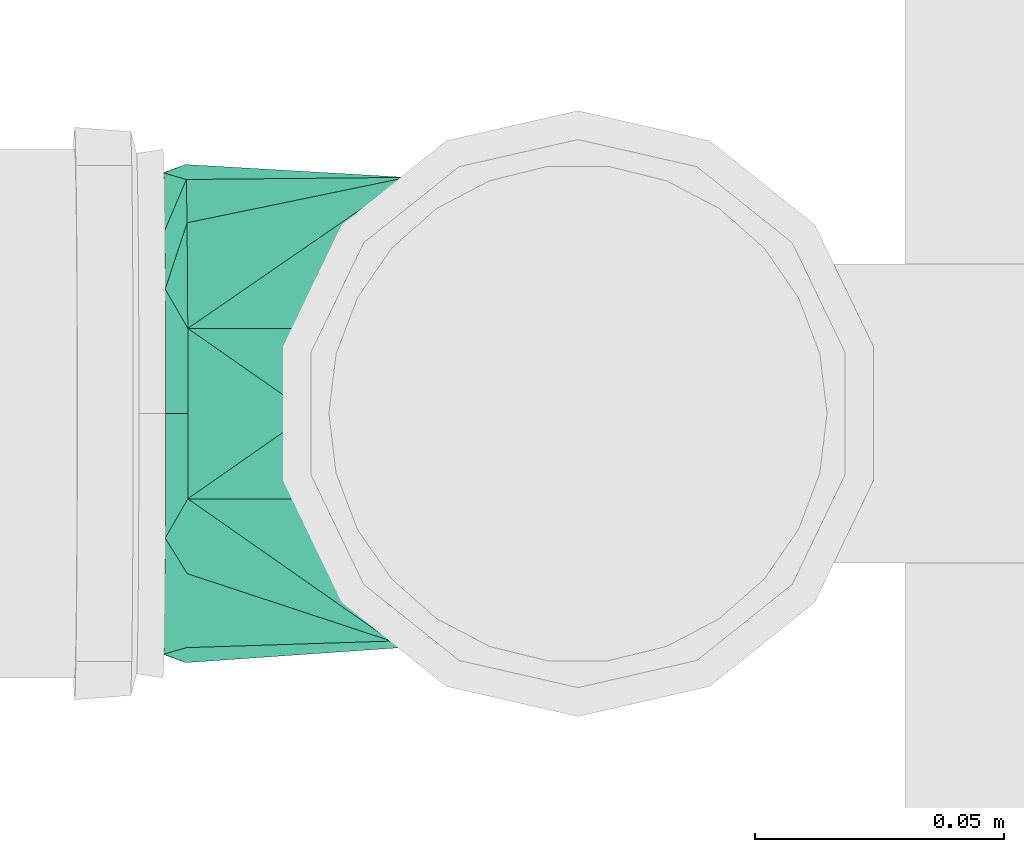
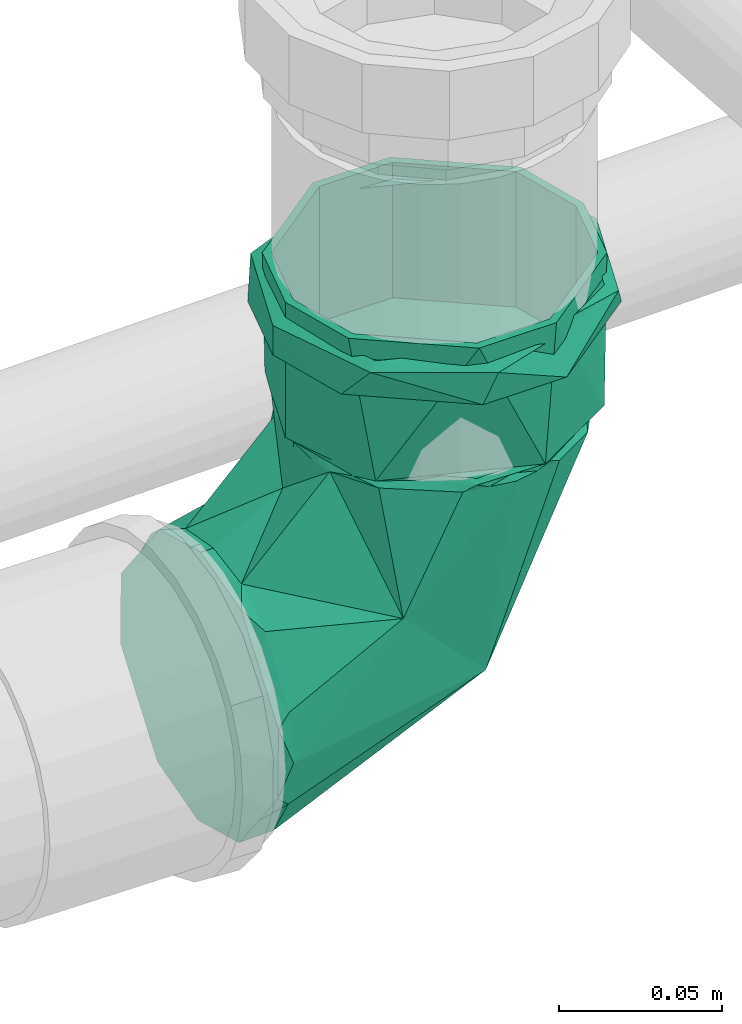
# One storey, part 83 of 589: 1 flow fitting.
"""IFC2X3 building model written with IfcOpenShell, lengths in millimetres."""

from ifc_helpers import new_model, entity, si_unit, converted_unit, derived_unit, direction, frame, origin, place, context, subcontext, project, spatial, faceted_brep, source, transform, mapped, material, type_object, type_shapes, element, save


model = new_model("IFC2X3")

# Units and contexts
model_context = context("Model", 3, precision=0.01, world=origin(), true_north=direction((6.123031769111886e-17, 1.0)))
body_context = subcontext(model_context, "Body", "Model", "MODEL_VIEW")
ifc_project = project(units=[si_unit("LENGTHUNIT", "METRE", prefix="MILLI"), si_unit("AREAUNIT", "SQUARE_METRE"), si_unit("VOLUMEUNIT", "CUBIC_METRE"), converted_unit("PLANEANGLEUNIT", "DEGREE", entity("IfcRatioMeasure", 0.017453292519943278), si_unit("PLANEANGLEUNIT", "RADIAN"), dimensions=[0, 0, 0, 0, 0, 0, 0]), si_unit("MASSUNIT", "GRAM", prefix="KILO"), derived_unit("MASSDENSITYUNIT", [(si_unit("MASSUNIT", "GRAM", prefix="KILO"), 1), (si_unit("LENGTHUNIT", "METRE"), -3)]), derived_unit("IONCONCENTRATIONUNIT", [(si_unit("MASSUNIT", "GRAM", prefix="KILO"), 1), (si_unit("LENGTHUNIT", "METRE"), -3)]), derived_unit("MOMENTOFINERTIAUNIT", [(si_unit("LENGTHUNIT", "METRE"), 4)]), si_unit("TIMEUNIT", "SECOND"), si_unit("FREQUENCYUNIT", "HERTZ"), si_unit("THERMODYNAMICTEMPERATUREUNIT", "DEGREE_CELSIUS"), derived_unit("THERMALTRANSMITTANCEUNIT", [(si_unit("MASSUNIT", "GRAM", prefix="KILO"), 1), (si_unit("THERMODYNAMICTEMPERATUREUNIT", "KELVIN"), -1), (si_unit("TIMEUNIT", "SECOND"), -3)]), derived_unit("THERMALCONDUCTANCEUNIT", [(si_unit("MASSUNIT", "GRAM", prefix="KILO"), 1), (si_unit("THERMODYNAMICTEMPERATUREUNIT", "KELVIN"), -1), (si_unit("TIMEUNIT", "SECOND"), -3), (si_unit("LENGTHUNIT", "METRE"), 1)]), derived_unit("VOLUMETRICFLOWRATEUNIT", [(si_unit("LENGTHUNIT", "METRE"), 3), (si_unit("TIMEUNIT", "SECOND"), -1)]), derived_unit("MASSFLOWRATEUNIT", [(si_unit("MASSUNIT", "GRAM", prefix="KILO"), 1), (si_unit("TIMEUNIT", "SECOND"), -1)]), derived_unit("ROTATIONALFREQUENCYUNIT", [(si_unit("TIMEUNIT", "SECOND"), -1)]), si_unit("ELECTRICCURRENTUNIT", "AMPERE"), si_unit("ELECTRICVOLTAGEUNIT", "VOLT"), si_unit("POWERUNIT", "WATT"), si_unit("FORCEUNIT", "NEWTON", prefix="KILO"), si_unit("ILLUMINANCEUNIT", "LUX"), si_unit("LUMINOUSFLUXUNIT", "LUMEN"), si_unit("LUMINOUSINTENSITYUNIT", "CANDELA"), derived_unit("USERDEFINED", [(si_unit("MASSUNIT", "GRAM", prefix="KILO"), -1), (si_unit("LENGTHUNIT", "METRE"), -2), (si_unit("TIMEUNIT", "SECOND"), 3), (si_unit("LUMINOUSFLUXUNIT", "LUMEN"), 1)]), derived_unit("USERDEFINED", [(si_unit("MASSUNIT", "GRAM", prefix="KILO"), 1), (si_unit("TIMEUNIT", "SECOND"), -3), (si_unit("LENGTHUNIT", "METRE"), 3), (si_unit("ELECTRICCURRENTUNIT", "AMPERE"), -2)]), derived_unit("SOUNDPOWERUNIT", [(si_unit("MASSUNIT", "GRAM", prefix="KILO"), 1), (si_unit("TIMEUNIT", "SECOND"), -3), (si_unit("LENGTHUNIT", "METRE"), 2)]), derived_unit("SOUNDPRESSUREUNIT", [(si_unit("MASSUNIT", "GRAM", prefix="KILO"), 1), (si_unit("LENGTHUNIT", "METRE"), -1), (si_unit("TIMEUNIT", "SECOND"), -2)]), derived_unit("LINEARVELOCITYUNIT", [(si_unit("LENGTHUNIT", "METRE"), 1), (si_unit("TIMEUNIT", "SECOND"), -1)]), si_unit("PRESSUREUNIT", "PASCAL"), derived_unit("USERDEFINED", [(si_unit("MASSUNIT", "GRAM", prefix="KILO"), 1), (si_unit("LENGTHUNIT", "METRE"), -2), (si_unit("TIMEUNIT", "SECOND"), -2)]), derived_unit("LINEARFORCEUNIT", [(si_unit("MASSUNIT", "GRAM", prefix="KILO"), 1), (si_unit("TIMEUNIT", "SECOND"), -2)]), derived_unit("PLANARFORCEUNIT", [(si_unit("MASSUNIT", "GRAM", prefix="KILO"), 1), (si_unit("LENGTHUNIT", "METRE"), -1), (si_unit("TIMEUNIT", "SECOND"), -2)]), derived_unit("SPECIFICHEATCAPACITYUNIT", [(si_unit("THERMODYNAMICTEMPERATUREUNIT", "KELVIN"), -1), (si_unit("LENGTHUNIT", "METRE"), 2), (si_unit("TIMEUNIT", "SECOND"), -2)]), derived_unit("HEATINGVALUEUNIT", [(si_unit("LENGTHUNIT", "METRE"), 2), (si_unit("TIMEUNIT", "SECOND"), -2)]), derived_unit("VAPORPERMEABILITYUNIT", [(si_unit("LENGTHUNIT", "METRE"), -1), (si_unit("TIMEUNIT", "SECOND"), 1)]), derived_unit("DYNAMICVISCOSITYUNIT", [(si_unit("MASSUNIT", "GRAM", prefix="KILO"), 1), (si_unit("TIMEUNIT", "SECOND"), -1), (si_unit("LENGTHUNIT", "METRE"), -1)]), derived_unit("THERMALEXPANSIONCOEFFICIENTUNIT", [(si_unit("THERMODYNAMICTEMPERATUREUNIT", "KELVIN"), -1)]), derived_unit("MODULUSOFELASTICITYUNIT", [(si_unit("MASSUNIT", "GRAM", prefix="KILO"), 1), (si_unit("LENGTHUNIT", "METRE"), -1), (si_unit("TIMEUNIT", "SECOND"), -2)]), derived_unit("ISOTHERMALMOISTURECAPACITYUNIT", [(si_unit("LENGTHUNIT", "METRE"), 3), (si_unit("MASSUNIT", "GRAM", prefix="KILO"), -1)]), derived_unit("MOISTUREDIFFUSIVITYUNIT", [(si_unit("TIMEUNIT", "SECOND"), -1), (si_unit("LENGTHUNIT", "METRE"), 2)])], contexts=[model_context])

# Site, building, storey
site_placement = place(None, origin())
site = spatial("IfcSite", under=ifc_project, at=site_placement, Name="Default", CompositionType="ELEMENT")
building_placement = place(site_placement, origin())
building = spatial("IfcBuilding", under=site, at=building_placement, CompositionType="ELEMENT")
storey_placement = place(building_placement, frame((0.0, 0.0, 100.0)))
storey = spatial("IfcBuildingStorey", under=building, at=storey_placement, Name="TÉRREO", CompositionType="ELEMENT", Elevation=100.0)

# Flow fitting
ifc_material = material(Name="PVC Branco")
pipe_fitting_type = type_object("IfcPipeFittingType", Name="PVC Esgoto_Curva 90° Curta:a. Série Normal", PredefinedType="NOTDEFINED", material=ifc_material)
shared_shape = source(origin(), body_context, "Body", "Brep", [
    faceted_brep([(-13.77310261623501, 83.150332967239, 48.29629131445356), (12.107507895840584, 83.40913907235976, 48.296291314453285), (27.28690791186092, 83.56093307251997, 36.64814565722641), (42.466307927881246, 83.71272707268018, 25.0), (49.16470282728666, 83.77971102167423, 0.0), (42.46630792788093, 83.71272707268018, -25.0), (27.286907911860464, 83.56093307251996, -36.64814565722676), (12.107507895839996, 83.40913907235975, -48.29629131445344), (-13.773102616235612, 83.150332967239, -48.2962913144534), (-28.95250263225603, 82.99853896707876, -36.64814565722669), (-44.131902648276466, 82.84674496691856, -25.0), (-50.83029754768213, 82.7797610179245, 0.0), (-44.131902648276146, 82.84674496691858, 25.0), (-28.952502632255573, 82.99853896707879, 36.64814565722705), (46.19447148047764, 79.24978371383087, 17.1010370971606), (16.31224781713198, 78.9509614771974, 46.9846691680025), (-17.887847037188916, 78.60896052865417, 46.98466916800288), (49.209700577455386, 79.27993600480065, 0.0), (37.5124666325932, 79.16296366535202, 32.139429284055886), (-32.92551224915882, 78.45858387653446, 38.30227334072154), (-0.7877996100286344, 78.77996100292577, 50.0), (-47.77007070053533, 78.31013829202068, 17.10103709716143), (-50.78529979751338, 78.2799860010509, 0.0), (-47.77007070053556, 78.31013829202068, -17.10103709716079), (-17.88784703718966, 78.60896052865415, -46.98466916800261), (16.312247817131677, 78.9509614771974, -46.98466916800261), (-39.08806585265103, 78.39695834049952, -32.1394292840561), (31.34991302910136, 79.1013381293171, -38.302273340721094), (-0.7877996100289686, 78.77996100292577, -50.0), (46.194471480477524, 79.24978371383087, -17.10103709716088), (-7.975140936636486, 7.895786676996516, 45.073651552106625), (-78.78389990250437, -17.100902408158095, 46.98466916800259), (-78.7838999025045, -27.701541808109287, 39.562049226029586), (-78.78389990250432, -38.302181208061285, 32.139429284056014), (-14.414764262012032, -32.63731005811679, 0.0), (-78.78389990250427, -46.984620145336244, 17.101037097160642), (-78.78389990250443, -48.49231007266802, 8.55051854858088), (-78.78389990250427, -50.0, 0.0), (-78.78389990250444, -42.64340067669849, 24.620233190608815), (-78.78389990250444, 0.0, 50.0), (-78.78389990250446, -8.550451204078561, 48.492334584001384), (32.49153787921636, 14.740400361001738, 0.0), (-34.6369786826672, 34.29234046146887, 47.412359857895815), (-78.78389990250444, 17.100902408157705, 46.98466916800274), (-78.78389990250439, 8.550451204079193, 48.49233458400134), (-78.78389990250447, 32.13931948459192, 38.302273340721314), (-78.78389990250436, 24.620110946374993, 42.64347125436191), (-78.78389990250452, 46.98462014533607, 17.101037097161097), (-78.78389990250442, 39.56196981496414, 27.701655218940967), (-64.70315148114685, 53.79808842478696, 0.0), (-78.78389990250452, 50.0, 0.0), (-78.78389990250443, 48.492310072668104, 8.550518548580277), (-37.82579928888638, 37.449427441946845, -45.66519222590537), (-78.78389990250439, 0.0, -50.0), (-78.78389990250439, 8.55045120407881, -48.49233458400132), (-78.78389990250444, 17.10090240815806, -46.984669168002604), (-7.975138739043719, 7.895784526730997, -45.07365007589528), (-78.78389990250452, 46.98462014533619, -17.101037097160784), (-78.78389990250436, 27.701541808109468, -39.562049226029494), (-78.7838999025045, 38.30218120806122, -32.139429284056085), (-78.78389990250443, -48.492310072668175, -8.550518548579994), (-78.78389990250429, -46.984620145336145, -17.1010370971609), (-78.78389990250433, -32.13931948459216, -38.302273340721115), (-78.7838999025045, -24.620110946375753, -42.6434712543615), (-78.78389990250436, -17.100902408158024, -46.98466916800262), (-78.78389990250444, -39.56196981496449, -27.70165521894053), (-78.78389990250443, 48.49231007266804, -8.550518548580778), (-78.78389990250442, 42.64340067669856, -24.620233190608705), (-78.78389990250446, -8.550451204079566, -48.49233458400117), (-80.78389990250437, 50.0, 0.0), (-80.78389990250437, 46.65063509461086, -12.500000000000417), (-80.78389990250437, 43.30127018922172, -25.0), (-80.78389990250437, 35.711190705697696, -30.82407282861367), (-80.78389990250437, 28.121111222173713, -36.64814565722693), (-80.78389990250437, 20.53103173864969, -42.47221848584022), (-80.78389990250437, 12.940952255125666, -48.29629131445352), (-80.78389990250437, 0.0, -48.29629131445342), (-80.78389990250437, -12.940952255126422, -48.29629131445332), (-80.78389990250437, -20.531031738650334, -42.47221848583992), (-80.78389990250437, -28.121111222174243, -36.64814565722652), (-80.78389990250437, -35.7111907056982, -30.824072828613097), (-80.78389990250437, -43.30127018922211, -25.0), (-80.78389990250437, -46.650635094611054, -12.499999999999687), (-80.78389990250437, -50.0, 0.0), (-80.78389990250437, -46.65063509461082, 12.500000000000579), (-80.78389990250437, -43.30127018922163, 25.0), (-80.78389990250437, -35.71119070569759, 30.82407282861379), (-80.78389990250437, -28.12111122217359, 36.648145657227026), (-80.78389990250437, -20.531031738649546, 42.47221848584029), (-80.78389990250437, -12.940952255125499, 48.29629131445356), (-80.78389990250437, 0.0, 48.29629131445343), (-80.78389990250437, 12.940952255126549, 48.296291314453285), (-80.78389990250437, 20.531031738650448, 42.47221848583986), (-80.78389990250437, 28.121111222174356, 36.648145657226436), (-80.78389990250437, 35.711190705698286, 30.824072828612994), (-80.78389990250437, 43.30127018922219, 25.0), (-80.78389990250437, 46.65063509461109, 12.499999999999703)], [[[0, 1, 2, 3, 4, 5, 6, 7, 8, 9, 10, 11, 12, 13]], [[14, 4, 3]], [[1, 15, 2]], [[13, 16, 0]], [[17, 4, 14]], [[18, 14, 3]], [[2, 15, 18]], [[13, 12, 19]], [[1, 20, 15]], [[18, 3, 2]], [[12, 21, 19]], [[12, 11, 21]], [[22, 21, 11]], [[20, 0, 16]], [[16, 13, 19]], [[0, 20, 1]], [[23, 11, 10]], [[8, 24, 9]], [[6, 25, 7]], [[22, 11, 23]], [[26, 23, 10]], [[9, 24, 26]], [[6, 5, 27]], [[8, 28, 24]], [[26, 10, 9]], [[5, 29, 27]], [[5, 4, 29]], [[17, 29, 4]], [[28, 7, 25]], [[25, 6, 27]], [[7, 28, 8]], [[30, 31, 32, 33]], [[34, 35, 36, 37]], [[34, 30, 33]], [[34, 33, 38, 35]], [[30, 39, 40, 31]], [[41, 30, 34]], [[42, 43, 44, 39]], [[20, 42, 30]], [[30, 42, 39]], [[42, 45, 46, 43]], [[42, 47, 48, 45]], [[49, 50, 51, 47]], [[20, 30, 15]], [[20, 16, 42]], [[30, 18, 15]], [[14, 18, 41]], [[17, 14, 41]], [[49, 21, 22]], [[49, 47, 21]], [[47, 42, 21]], [[42, 19, 21]], [[42, 16, 19]], [[30, 41, 18]], [[52, 53, 54, 55]], [[34, 56, 41]], [[52, 24, 28]], [[52, 57, 23]], [[52, 55, 58, 59]], [[56, 53, 52]], [[34, 37, 60, 61]], [[56, 62, 63, 64]], [[62, 56, 34]], [[34, 61, 65, 62]], [[49, 57, 66, 50]], [[49, 22, 23]], [[27, 56, 25]], [[52, 59, 67, 57]], [[52, 26, 24]], [[52, 23, 26]], [[52, 28, 56]], [[56, 64, 68, 53]], [[28, 25, 56]], [[56, 27, 41]], [[29, 17, 41]], [[29, 41, 27]], [[49, 23, 57]], [[69, 70, 71, 72, 73, 74, 75, 76, 77, 78, 79, 80, 81, 82, 83, 84, 85, 86, 87, 88, 89, 90, 91, 92, 93, 94, 95, 96]], [[51, 50, 69]], [[31, 89, 88]], [[92, 43, 46]], [[46, 45, 93]], [[31, 88, 32]], [[93, 92, 46]], [[96, 95, 47]], [[94, 93, 45]], [[85, 84, 35]], [[69, 96, 51]], [[90, 44, 91]], [[89, 40, 90]], [[33, 87, 86, 85]], [[85, 35, 38, 33]], [[89, 31, 40]], [[83, 36, 84]], [[45, 48, 94]], [[40, 39, 90]], [[44, 43, 91]], [[32, 88, 87]], [[48, 47, 95]], [[87, 33, 32]], [[44, 90, 39]], [[96, 47, 51]], [[92, 91, 43]], [[48, 95, 94]], [[36, 83, 37]], [[36, 35, 84]], [[60, 37, 83]], [[55, 75, 74]], [[78, 64, 63]], [[63, 62, 79]], [[55, 74, 58]], [[79, 78, 63]], [[82, 81, 61]], [[80, 79, 62]], [[71, 70, 57]], [[83, 82, 60]], [[76, 68, 77]], [[75, 54, 76]], [[59, 73, 72, 71]], [[71, 57, 67, 59]], [[75, 55, 54]], [[69, 66, 70]], [[62, 65, 80]], [[54, 53, 76]], [[68, 64, 77]], [[58, 74, 73]], [[65, 61, 81]], [[73, 59, 58]], [[68, 76, 53]], [[82, 61, 60]], [[78, 77, 64]], [[65, 81, 80]], [[66, 69, 50]], [[66, 57, 70]]]),
    faceted_brep([(-115.78389990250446, 13.678586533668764, -51.04917991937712), (-115.78389990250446, -13.678586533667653, -51.04917991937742), (-115.78389990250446, -14.83033128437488, -55.3475498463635), (-115.78389990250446, 14.830331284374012, -55.347549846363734), (-115.78389990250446, 45.76944259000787, -26.42499999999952), (-115.78389990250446, -49.62325563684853, -28.64999999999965), (-115.78389990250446, -45.769442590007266, -26.425000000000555), (-115.78389990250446, -52.85000000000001, 0.0), (-115.78389990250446, -57.300000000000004, 0.0), (-115.78389990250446, -45.76944259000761, 26.424999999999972), (-115.78389990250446, -49.62325563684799, 28.6500000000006), (-115.78389990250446, -13.67858653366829, 51.04917991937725), (-115.78389990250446, -14.830331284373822, 55.34754984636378), (-115.78389990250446, 13.678586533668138, 51.049179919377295), (-115.78389990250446, 14.830331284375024, 55.34754984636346), (-115.78389990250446, 45.76944259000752, 26.42500000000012), (-115.78389990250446, 49.62325563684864, 28.64999999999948), (-115.78389990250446, 57.300000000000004, 0.0), (-115.78389990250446, 52.85000000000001, 0.0), (-115.78389990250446, 49.62325563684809, -28.65000000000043), (-126.78389990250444, 57.300000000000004, 0.0), (-126.78389990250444, 50.59641416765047, 18.416769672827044), (-126.78389990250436, 43.89282833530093, 36.833539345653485), (-126.78389990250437, 16.96848634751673, 46.63099896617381), (-126.78389990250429, -9.955855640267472, 56.42845858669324), (-126.78389990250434, -26.927757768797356, 46.62692777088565), (-126.78389990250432, -43.89965989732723, 36.82539695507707), (-126.78389990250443, -51.65442122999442, 15.514582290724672), (-126.78389990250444, -57.300000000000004, 0.0), (-126.78389990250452, -51.654421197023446, -15.514582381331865), (-126.78389990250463, -43.89965989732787, -36.825396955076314), (-126.78389990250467, -16.97713572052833, -46.627850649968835), (-126.7838999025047, 9.945388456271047, -56.43030434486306), (-126.78389990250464, 26.91910839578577, -46.63192184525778), (-126.7838999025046, 43.89282833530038, -36.83353934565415), (-126.78389990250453, 50.59641416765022, -18.416769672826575), (-126.78389990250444, 52.85000000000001, 0.0), (-128.2838999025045, 52.85000000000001, 0.0), (-126.78389990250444, 51.07986064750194, -6.606250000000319), (-126.78389990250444, 49.309721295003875, -13.212500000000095), (-126.78389990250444, 47.53958194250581, -19.818749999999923), (-126.78389990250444, 45.769442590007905, -26.42499999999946), (-126.78389990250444, 37.74672857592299, -32.581044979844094), (-126.78389990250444, 29.72401456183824, -38.73708995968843), (-126.78389990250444, 21.70130054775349, -44.89313493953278), (-126.78389990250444, 13.678586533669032, -51.049179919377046), (-126.78389990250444, 6.83929326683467, -51.0491799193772), (-126.78389990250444, 0.0, -51.04917991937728), (-126.78389990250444, -6.839293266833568, -51.049179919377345), (-126.78389990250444, -13.678586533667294, -51.049179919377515), (-126.78389990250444, -21.70130054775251, -44.89313493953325), (-126.78389990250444, -29.724014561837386, -38.73708995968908), (-126.78389990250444, -37.74672857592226, -32.581044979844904), (-126.78389990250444, -45.76944259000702, -26.425000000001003), (-126.78389990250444, -47.53958194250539, -19.818750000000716), (-126.78389990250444, -49.3097212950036, -13.212500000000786), (-126.78389990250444, -51.0798606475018, -6.606250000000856), (-128.2838999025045, -52.85000000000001, 0.0), (-126.78389990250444, -52.85000000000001, 0.0), (-126.78389990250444, -51.07986064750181, 6.606250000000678), (-126.78389990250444, -49.30972129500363, 13.212500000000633), (-126.78389990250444, -47.53958194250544, 19.81875000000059), (-126.78389990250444, -45.769442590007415, 26.425000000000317), (-126.78389990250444, -37.74672857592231, 32.58104497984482), (-126.78389990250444, -29.724014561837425, 38.73708995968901), (-126.78389990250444, -21.70130054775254, 44.893134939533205), (-126.78389990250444, -17.689943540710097, 47.9711574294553), (-126.78389990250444, -13.67858653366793, 51.049179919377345), (-126.78389990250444, -6.8392932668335, 51.04917991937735), (-126.78389990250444, 0.0, 51.04917991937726), (-126.78389990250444, 6.839293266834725, 51.04917991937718), (-126.78389990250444, 13.67858653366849, 51.049179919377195), (-126.78389990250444, 21.701300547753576, 44.893134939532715), (-126.78389990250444, 29.724014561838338, 38.73708995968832), (-126.78389990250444, 37.7467285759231, 32.58104497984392), (-126.78389990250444, 45.769442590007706, 26.424999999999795), (-126.78389990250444, 47.539581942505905, 19.818749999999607), (-126.78389990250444, 49.30972129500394, 13.212499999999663), (-126.78389990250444, 51.079860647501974, 6.606249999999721), (-128.28389990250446, -49.75936154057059, 8.49223617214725), (-128.28389990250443, -46.668723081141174, 16.984472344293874), (-128.28389990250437, -21.863819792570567, 40.74836470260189), (-128.28389990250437, -15.655944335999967, 43.00817137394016), (-128.28389990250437, -28.07169524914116, 38.488558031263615), (-128.2838999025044, 40.48487812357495, 33.9720052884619), (-128.2838999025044, 32.6575479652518, 38.490853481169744), (-128.28389990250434, 9.175557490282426, 52.04739805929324), (-128.2838999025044, 24.830217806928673, 43.00970167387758), (-128.28389990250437, 17.002887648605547, 47.528549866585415), (-128.2838999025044, -43.578084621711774, 25.476708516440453), (-128.2838999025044, -40.48744616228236, 33.96894468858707), (-128.2838999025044, -34.27957070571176, 36.22875135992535), (-128.28389990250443, 46.667439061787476, 16.986002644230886), (-128.28389990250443, 43.57615859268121, 25.479003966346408), (-128.28389990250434, 2.967682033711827, 49.78759138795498), (-127.4733463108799, 42.95894728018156, 30.783946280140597), (-128.28389990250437, -9.44806887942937, 45.26797804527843), (-128.2838999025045, 49.75871953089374, 8.49300132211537), (-128.2838999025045, 47.64176169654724, 14.30914316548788), (-128.28389990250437, -3.2401934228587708, 47.5277847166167), (-128.28389990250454, 46.667439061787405, -16.986002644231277), (-128.28389990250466, 3.2366004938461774, -47.52802952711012), (-128.28389990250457, 43.576158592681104, -25.479003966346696), (-128.2838999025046, 40.4848781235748, -33.972005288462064), (-128.2838999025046, 34.27683185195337, -36.231342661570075), (-128.28389990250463, -17.006480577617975, -47.52726437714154), (-128.28389990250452, 49.75871953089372, -8.493001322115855), (-128.28389990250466, -9.179492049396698, -52.04670427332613), (-128.28389990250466, -2.971445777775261, -49.787366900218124), (-128.28389990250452, -46.66872308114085, -16.984472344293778), (-128.28389990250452, -43.578084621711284, -25.476708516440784), (-128.2838999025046, 28.068785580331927, -38.490680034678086), (-128.28389990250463, 21.86073930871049, -40.75001740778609), (-128.28389990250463, 15.652693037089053, -43.00935478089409), (-128.28389990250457, -32.66045763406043, -38.48838458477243), (-128.2838999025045, -49.75936154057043, -8.492236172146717), (-128.28389990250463, 9.444646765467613, -45.268692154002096), (-128.28389990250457, -40.48744616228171, -33.96894468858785), (-128.2838999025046, -24.833469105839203, -43.007824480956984)], [[[0, 1, 2]], [[2, 3, 0]], [[4, 0, 3]], [[5, 2, 1]], [[1, 6, 5]], [[6, 7, 5]], [[8, 5, 7]], [[8, 7, 9]], [[10, 8, 9]], [[9, 11, 10]], [[11, 12, 10]], [[13, 12, 11]], [[12, 13, 14]], [[13, 15, 14]], [[16, 14, 15]], [[16, 15, 17]], [[17, 15, 18]], [[18, 4, 19]], [[17, 18, 19]], [[3, 19, 4]], [[16, 20, 21, 22]], [[20, 16, 17]], [[16, 22, 14]], [[14, 22, 23, 24]], [[12, 24, 25, 26]], [[10, 26, 27, 28]], [[26, 10, 12]], [[10, 28, 8]], [[24, 12, 14]], [[5, 28, 29, 30]], [[28, 5, 8]], [[5, 30, 2]], [[2, 30, 31, 32]], [[3, 32, 33, 34]], [[19, 34, 35, 20]], [[34, 19, 3]], [[19, 20, 17]], [[32, 3, 2]], [[4, 18, 36, 37, 38, 39, 40, 41]], [[0, 4, 41, 42, 43, 44, 45]], [[0, 45, 46, 47, 48, 49, 1]], [[6, 1, 49, 50, 51, 52, 53]], [[7, 6, 53, 54, 55, 56, 57, 58]], [[9, 7, 58, 57, 59, 60, 61, 62]], [[11, 9, 62, 63, 64, 65, 66, 67]], [[11, 67, 68, 69, 70, 71, 13]], [[15, 13, 71, 72, 73, 74, 75]], [[18, 15, 75, 76, 77, 78, 37, 36]], [[79, 80, 60]], [[81, 82, 65, 83]], [[84, 74, 85]], [[73, 85, 74]], [[71, 70, 86]], [[87, 72, 88]], [[89, 90, 62]], [[90, 91, 63]], [[66, 65, 82, 67]], [[92, 76, 93]], [[59, 79, 60]], [[83, 65, 64]], [[61, 89, 62]], [[63, 91, 64]], [[71, 88, 72]], [[86, 70, 94]], [[69, 94, 70]], [[75, 95, 93]], [[96, 67, 82]], [[78, 97, 37]], [[84, 93, 95]], [[77, 92, 98, 97]], [[73, 87, 85]], [[74, 95, 75]], [[95, 74, 84]], [[73, 72, 87]], [[71, 86, 88]], [[63, 62, 90]], [[61, 80, 89]], [[91, 83, 64]], [[75, 93, 76]], [[92, 77, 76]], [[79, 59, 57]], [[61, 60, 80]], [[99, 94, 69]], [[99, 68, 96]], [[78, 77, 97]], [[67, 96, 68]], [[99, 69, 68]], [[40, 39, 100]], [[47, 46, 101]], [[102, 103, 41]], [[43, 42, 104]], [[49, 105, 50]], [[106, 100, 39]], [[42, 103, 104]], [[107, 48, 108]], [[109, 54, 110]], [[106, 38, 37]], [[111, 112, 113, 44]], [[40, 102, 41]], [[42, 41, 103]], [[51, 114, 52]], [[56, 115, 57]], [[113, 116, 45]], [[101, 46, 116]], [[45, 116, 46]], [[44, 43, 111]], [[113, 45, 44]], [[53, 117, 110]], [[55, 109, 115]], [[117, 53, 52]], [[100, 102, 40]], [[118, 50, 105]], [[118, 51, 50]], [[105, 49, 107]], [[53, 110, 54]], [[109, 55, 54]], [[117, 52, 114]], [[51, 118, 114]], [[107, 49, 48]], [[47, 108, 48]], [[56, 55, 115]], [[104, 111, 43]], [[106, 39, 38]], [[47, 101, 108]], [[30, 109, 110, 117]], [[29, 57, 115, 109]], [[107, 32, 31]], [[31, 118, 105, 107]], [[57, 29, 28]], [[30, 117, 114, 118]], [[20, 100, 106, 37]], [[33, 113, 112, 111, 104, 103]], [[30, 118, 31]], [[32, 107, 108, 101, 116, 113]], [[20, 35, 100]], [[30, 29, 109]], [[34, 103, 35]], [[113, 33, 32]], [[34, 33, 103]], [[35, 103, 102, 100]], [[21, 84, 22]], [[20, 98, 21]], [[23, 87, 88, 86]], [[22, 84, 85, 87]], [[20, 37, 97, 98]], [[22, 87, 23]], [[27, 80, 79, 57]], [[24, 86, 94, 99, 96, 82]], [[86, 24, 23]], [[82, 25, 24]], [[26, 90, 89, 80]], [[21, 98, 92, 93, 84]], [[26, 80, 27]], [[90, 26, 25]], [[25, 82, 81, 83, 91, 90]], [[57, 28, 27]]]),
    faceted_brep([(-133.9838999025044, -13.678586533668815, -51.04917991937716), (-133.9838999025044, -12.940952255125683, -48.29629131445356), (-133.9838999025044, 12.940952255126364, -48.29629131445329), (-133.9838999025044, -45.76944259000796, -26.424999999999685), (-133.9838999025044, 13.678586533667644, -51.04917991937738), (-133.9838999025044, -43.301270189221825, -25.0), (-133.9838999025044, -50.0, 0.0), (-133.9838999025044, -52.850000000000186, 0.0), (-133.9838999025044, -43.30127018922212, 25.0), (-133.9838999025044, -45.76944259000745, 26.425000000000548), (-133.9838999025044, -12.940952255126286, 48.29629131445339), (-133.9838999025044, -13.678586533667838, 51.049179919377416), (-133.9838999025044, 12.940952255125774, 48.29629131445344), (-133.9838999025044, 13.678586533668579, 51.04917991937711), (-133.9838999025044, 43.30127018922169, 25.0), (-133.9838999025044, 45.76944259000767, 26.42499999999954), (-133.9838999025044, 52.84999999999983, 0.0), (-133.9838999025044, 50.0, 0.0), (-133.9838999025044, 45.76944259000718, -26.425000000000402), (-133.9838999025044, 43.30127018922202, -25.0), (-83.28389990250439, 52.849999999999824, 0.0), (-83.28389990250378, 40.488967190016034, 33.967131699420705), (-83.28389990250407, 46.66948359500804, 16.983565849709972), (-83.28389990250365, 9.181156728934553, 52.04641064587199), (-83.2838999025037, 24.835061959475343, 43.00677117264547), (-83.283899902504, -40.48444349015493, 33.972523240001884), (-83.28389990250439, -52.85000000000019, 0.0), (-83.28389990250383, -15.651643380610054, 43.00946694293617), (-83.2838999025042, -46.667221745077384, 16.986261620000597), (-83.28389990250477, -40.48444349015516, -33.972523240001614), (-83.28389990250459, -46.6672217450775, -16.98626162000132), (-83.283899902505, -9.174225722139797, -52.04763282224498), (-83.2838999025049, -24.829334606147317, -43.010078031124), (-83.28389990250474, 40.488967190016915, -33.96713169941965), (-83.28389990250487, 15.657370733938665, -43.00738226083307), (-83.28389990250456, 46.6694835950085, -16.98356584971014), (-83.28389990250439, -43.301270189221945, 25.0), (-83.28389990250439, -12.940952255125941, 48.2962913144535), (-83.28389990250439, 12.940952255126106, 48.29629131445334), (-83.28389990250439, 43.30127018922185, 25.0), (-83.28389990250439, 50.0, 0.0), (-83.28389990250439, 43.30127018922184, -25.0), (-83.28389990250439, 12.940952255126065, -48.296291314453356), (-83.28389990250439, -12.940952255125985, -48.29629131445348), (-83.28389990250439, -43.301270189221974, -25.0), (-83.28389990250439, -50.0, 0.0), (-80.78389990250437, 12.940952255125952, 48.29629131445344), (-80.78389990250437, -12.940952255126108, 48.29629131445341), (-80.78389990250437, -28.121111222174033, 36.64814565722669), (-80.78389990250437, -43.30127018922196, 25.0), (-80.78389990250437, -50.0, 0.0), (-80.78389990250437, -43.30127018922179, -25.0), (-80.78389990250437, -28.1211112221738, -36.64814565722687), (-80.78389990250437, -12.94095225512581, -48.29629131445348), (-80.78389990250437, 12.940952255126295, -48.29629131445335), (-80.78389990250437, 28.121111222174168, -36.64814565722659), (-80.78389990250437, 43.301270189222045, -25.0), (-80.78389990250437, 50.0, 0.0), (-80.78389990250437, 43.301270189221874, 25.0), (-80.78389990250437, 28.121111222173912, 36.648145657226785)], [[[0, 1, 2]], [[1, 0, 3]], [[2, 4, 0]], [[3, 5, 1]], [[3, 6, 5]], [[6, 3, 7]], [[8, 6, 7]], [[8, 7, 9]], [[9, 10, 8]], [[9, 11, 10]], [[10, 11, 12]], [[13, 12, 11]], [[13, 14, 12]], [[14, 13, 15]], [[16, 14, 15]], [[17, 14, 16]], [[18, 17, 16]], [[18, 19, 17]], [[19, 18, 4]], [[4, 2, 19]], [[16, 15, 20]], [[15, 21, 22, 20]], [[21, 15, 13]], [[13, 23, 24, 21]], [[25, 11, 9]], [[26, 9, 7]], [[11, 25, 27, 23]], [[9, 26, 28, 25]], [[11, 23, 13]], [[7, 3, 26]], [[3, 29, 30, 26]], [[29, 3, 0]], [[0, 31, 32, 29]], [[33, 4, 18]], [[20, 18, 16]], [[4, 33, 34, 31]], [[18, 20, 35, 33]], [[4, 31, 0]], [[36, 37, 38, 39, 40, 41, 42, 43, 44, 45]], [[46, 47, 48, 49, 50, 51, 52, 53, 54, 55, 56, 57, 58, 59]], [[34, 55, 54]], [[35, 57, 56]], [[35, 20, 57]], [[56, 33, 35]], [[33, 55, 34]], [[32, 31, 53]], [[30, 29, 51]], [[52, 29, 32]], [[33, 56, 55]], [[30, 50, 26]], [[50, 30, 51]], [[54, 31, 34]], [[52, 51, 29]], [[53, 31, 54]], [[53, 52, 32]], [[27, 48, 47]], [[28, 50, 49]], [[28, 26, 50]], [[49, 25, 28]], [[25, 48, 27]], [[24, 23, 46]], [[22, 21, 58]], [[59, 21, 24]], [[25, 49, 48]], [[22, 57, 20]], [[57, 22, 58]], [[47, 23, 27]], [[59, 58, 21]], [[46, 23, 47]], [[46, 59, 24]], [[41, 40, 17, 19]], [[42, 41, 19, 2]], [[2, 1, 43, 42]], [[44, 43, 1, 5]], [[45, 44, 5, 6]], [[36, 45, 6, 8]], [[37, 36, 8, 10]], [[10, 12, 38, 37]], [[39, 38, 12, 14]], [[40, 39, 14, 17]]]),
])
type_shapes(pipe_fitting_type, [shared_shape])
flow_fitting_placement = place(storey_placement, frame((-7221.0123525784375, -528.9241377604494, -244.2773109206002), z_axis=(0.0, 1.0, 0.0), x_axis=(0.0, 0.0, -1.0)))
element("IfcFlowFitting", 1, at=flow_fitting_placement, inside=storey, type_object=pipe_fitting_type, material=ifc_material, Name="PVC Esgoto_Curva 90° Curta:a. Série Normal", ObjectType="PVC Esgoto_Curva 90° Curta:a. Série Normal", context=body_context, shape_type="MappedRepresentation", body=[
    mapped(shared_shape, transform((0.0, 0.0, 0.0), scale=1.0)),
])

save(model, "model.ifc")
